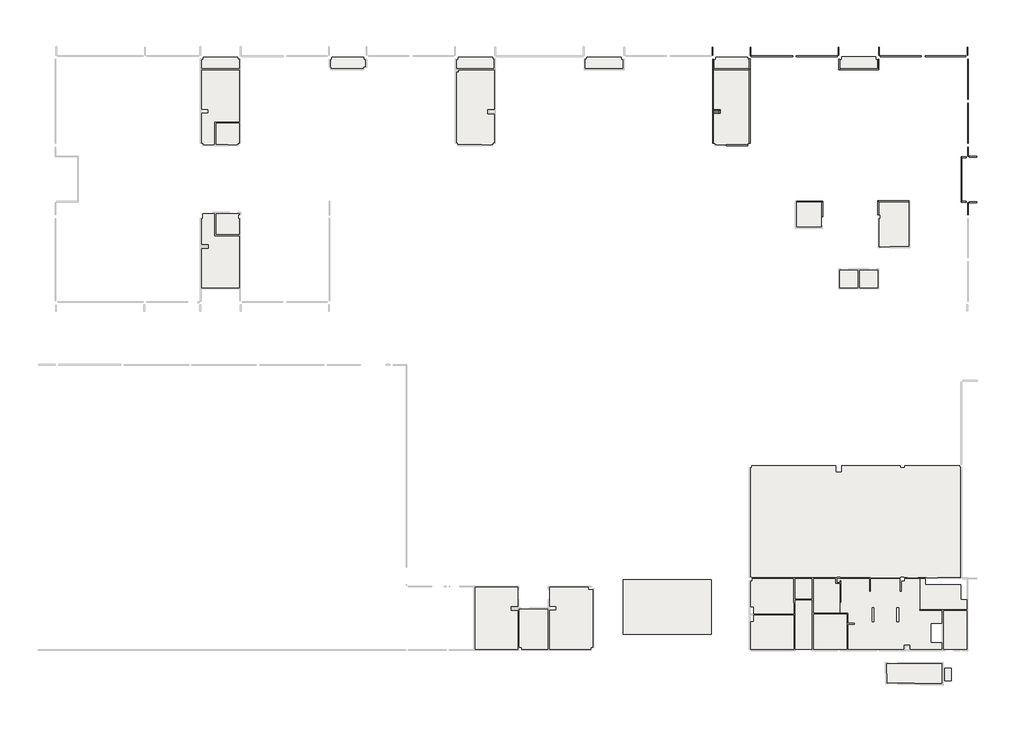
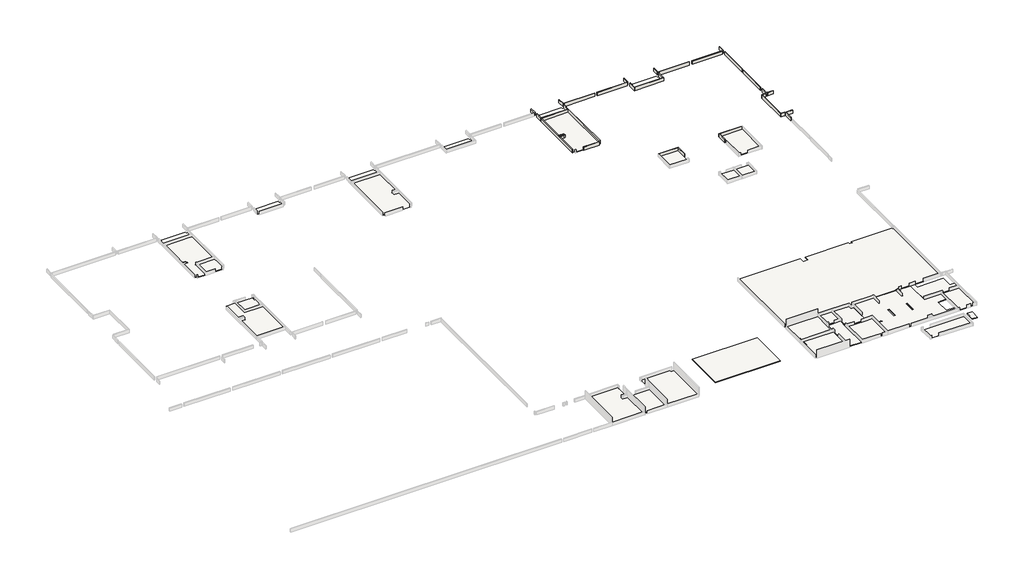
# One storey, part 4 of 4: 34 walls, 32 slabs.
"""IFC4 building model written with IfcOpenShell, lengths in millimetres."""

from ifc_helpers import new_model, si_unit, frame, origin, place, context, project, spatial, polyline, outline, extrude, faceted_brep, element, save

model = new_model("IFC4")

# Units and contexts
model_context = context("Model", 3, world=origin())
ifc_project = project(units=[si_unit("LENGTHUNIT", "METRE", prefix="MILLI")], contexts=[model_context])

# Site, building, storey
site = spatial("IfcSite", under=ifc_project)
building = spatial("IfcBuilding", under=site)
storey = spatial("IfcBuildingStorey", under=building, Name="PLANTA DE IMPERMEABILIZAÇÃO - TERREO", Elevation=52050.0)

# Slabs
placement = place(None, origin())
element("IfcSlab", 1, ObjectType="Áreas frias", at=placement, inside=storey, context=model_context, shape_type="SweptSolid", body=[
    extrude(outline(polyline([(-43835.4504459, 21906.8823991), (-44843.0467035, 21906.8823991), (-44843.0467035, 22040.4418221), (-44972.049875, 22040.4418221), (-44972.049875, 24681.8823991), (-44369.549875, 24681.8823991), (-44369.549875, 25056.8823991), (-44972.049875, 25056.8823991), (-44972.049875, 28556.8823991), (-41602.049875, 28556.8823991), (-41602.049875, 23956.8823991), (-43835.4504459, 23956.8823991), (-43835.4504459, 21906.8823991)])), frame((0.0, 0.0, 52047.0), z_axis=(0.0, 0.0, 1.0), x_axis=(1.0, 0.0, 0.0)), (0.0, 0.0, 1.0), 53.0),
])
element("IfcSlab", 2, ObjectType="Áreas frias", at=placement, inside=storey, context=model_context, shape_type="SweptSolid", body=[
    extrude(outline(polyline([(-41731.0467035, 21906.8823991), (-43685.4504459, 21906.8823991), (-43685.4504459, 23806.8823991), (-41602.049875, 23806.8823991), (-41602.049875, 22040.4418221), (-41731.0467035, 22040.4418221), (-41731.0467035, 21906.8823991)])), frame((0.0, 0.0, 52047.0), z_axis=(0.0, 0.0, 1.0), x_axis=(1.0, 0.0, 0.0)), (0.0, 0.0, 1.0), 53.0),
])
element("IfcSlab", 3, ObjectType="Áreas frias", at=placement, inside=storey, context=model_context, shape_type="SweptSolid", body=[
    extrude(outline(polyline([(-18837.049875, 24632.8850282), (-18837.049875, 22041.4418221), (-18968.5467035, 22041.4418221), (-18968.5467035, 21906.8823991), (-22075.5467035, 21906.8823991), (-22075.5467035, 22041.4418221), (-22207.049875, 22041.4418221), (-22207.049875, 28352.3823991), (-22005.049875, 28352.3823991), (-22005.049875, 28556.8823991), (-18837.049875, 28556.8823991), (-18837.049875, 25056.8850283), (-19439.549875, 25056.8850283), (-19439.549875, 24632.8850282), (-18837.049875, 24632.8850282)])), frame((0.0, 0.0, 52047.0), z_axis=(0.0, 0.0, 1.0), x_axis=(1.0, 0.0, 0.0)), (0.0, 0.0, 1.0), 53.0),
])
element("IfcSlab", 4, ObjectType="Áreas frias", at=placement, inside=storey, context=model_context, shape_type="SweptSolid", body=[
    extrude(outline(polyline([(3798.9532965, 21906.8823991), (909.4532965, 21906.8823991), (909.4532965, 22040.4418221), (785.450125, 22040.4418221), (785.450125, 24677.5823991), (1385.6589783, 24677.5823991), (1385.6589783, 25057.5823991), (785.450125, 25057.5823991), (785.450125, 28556.8823991), (3925.450125, 28556.8823991), (3925.450125, 22040.4418221), (3798.9532965, 22040.4418221), (3798.9532965, 21906.8823991)])), frame((0.0, 0.0, 52047.0), z_axis=(0.0, 0.0, 1.0), x_axis=(1.0, 0.0, 0.0)), (0.0, 0.0, 1.0), 53.0),
])
element("IfcSlab", 5, ObjectType="Áreas frias", at=placement, inside=storey, context=model_context, shape_type="SweptSolid", body=[
    extrude(outline(polyline([(-44867.5467035, 15736.8823991), (-43835.4504459, 15736.8823991), (-43835.4504459, 13722.7823991), (-41602.049875, 13722.7823991), (-41602.049875, 9122.7823991), (-44972.049875, 9122.7823991), (-44972.049875, 12622.7823991), (-44369.549875, 12622.7823991), (-44369.549875, 12997.7823991), (-44972.049875, 12997.7823991), (-44972.049875, 15286.8823991), (-44867.5467035, 15286.8823991), (-44867.5467035, 15736.8823991)])), frame((0.0, 0.0, 52097.0), z_axis=(0.0, 0.0, 1.0), x_axis=(1.0, 0.0, 0.0)), (0.0, 0.0, 1.0), 53.0),
])
element("IfcSlab", 6, ObjectType="Áreas frias", at=placement, inside=storey, context=model_context, shape_type="SweptSolid", body=[
    extrude(outline(polyline([(10377.9501439, 16739.3823991), (10377.9501439, 14536.8823991), (8177.9501439, 14536.8823991), (8177.9501439, 16739.3823991), (10377.9501439, 16739.3823991)])), frame((0.0, 0.0, 52047.0), z_axis=(0.0, 0.0, 1.0), x_axis=(1.0, 0.0, 0.0)), (0.0, 0.0, 1.0), 53.0),
])
element("IfcSlab", 7, ObjectType="Áreas frias", at=placement, inside=storey, context=model_context, shape_type="SweptSolid", body=[
    extrude(outline(polyline([(18187.4566277, 16739.3823991), (18187.4566277, 12785.8824248), (15557.950125, 12785.8824248), (15557.950125, 15286.8823991), (15657.4532965, 15286.8823991), (15657.4532965, 15636.8823991), (15557.950125, 15636.8823991), (15557.950125, 16486.8823991), (15557.950125, 16739.3823991), (18187.4566277, 16739.3823991)])), frame((0.0, 0.0, 52047.0), z_axis=(0.0, 0.0, 1.0), x_axis=(1.0, 0.0, 0.0)), (0.0, 0.0, 1.0), 53.0),
])
element("IfcSlab", 8, ObjectType="Áreas frias", at=placement, inside=storey, context=model_context, shape_type="SweptSolid", body=[
    extrude(outline(polyline([(12050.450125, 10691.3823977), (13657.950125, 10691.3823977), (13657.950125, 9117.3823973), (12050.450125, 9117.3823973), (12050.450125, 10691.3823977)])), frame((0.0, 0.0, 52097.0), z_axis=(0.0, 0.0, 1.0), x_axis=(1.0, 0.0, 0.0)), (0.0, 0.0, 1.0), 53.0),
])
element("IfcSlab", 9, ObjectType="Áreas frias", at=placement, inside=storey, context=model_context, shape_type="SweptSolid", body=[
    extrude(outline(polyline([(13807.950125, 10691.3823977), (15415.450125, 10691.3823977), (15415.450125, 9117.3823973), (13807.950125, 9117.3823973), (13807.950125, 10691.3823977)])), frame((0.0, 0.0, 52097.0), z_axis=(0.0, 0.0, 1.0), x_axis=(1.0, 0.0, 0.0)), (0.0, 0.0, 1.0), 53.0),
])
element("IfcSlab", 10, ObjectType="Áreas frias", at=placement, inside=storey, context=model_context, shape_type="SweptSolid", body=[
    extrude(outline(polyline([(17814.4532965, -16798.1176009), (17814.4532965, -16711.6176009), (17446.4532965, -16711.6176009), (17446.4532965, -16798.1176009), (12129.4533154, -16798.1176009), (12129.4533154, -16711.6176009), (11761.4533154, -16711.6176009), (11761.4533154, -16798.1176009), (4179.4532965, -16798.1176009), (4179.4532965, -16711.6176009), (4060.250125, -16711.6176009), (4060.250125, -16709.1176009), (4060.250125, -6987.1176009), (4060.250125, -6984.6176009), (4189.4532965, -6984.6176009), (4189.4532965, -6773.1176009), (11660.4533154, -6773.1176009), (11660.4533154, -7373.1176009), (12230.4533154, -7373.1176009), (12230.4533154, -6768.1176009), (17436.4532965, -6768.1176009), (17436.4532965, -6984.6176009), (17824.4532965, -6984.6176009), (17824.4532965, -6768.1176009), (22749.450125, -6768.1176009), (22749.450125, -6925.1176009), (22825.152905, -6925.1176009), (22825.152905, -6940.1176009), (22825.152905, -16798.1176009), (17814.4532965, -16798.1176009)])), frame((0.0, 0.0, 52047.0), z_axis=(0.0, 0.0, 1.0), x_axis=(1.0, 0.0, 0.0)), (0.0, 0.0, 1.0), 53.0),
])
element("IfcSlab", 11, ObjectType="Áreas frias", at=placement, inside=storey, context=model_context, shape_type="SweptSolid", body=[
    extrude(outline(polyline([(21182.1190357, -24491.617526), (21182.1190357, -24624.1802714), (21182.1190357, -26190.8666518), (21182.1190357, -26264.0423581), (16240.6986665, -26165.6844323), (16240.6986665, -25433.212836), (16240.6986665, -25289.9696677), (16240.6986665, -24491.617526), (21182.1190357, -24491.617526)])), frame((0.0, 0.0, 52047.0), z_axis=(0.0, 0.0, 1.0), x_axis=(1.0, 0.0, 0.0)), (0.0, 0.0, 1.0), 53.0),
])
element("IfcSlab", 12, ObjectType="Áreas frias", at=placement, inside=storey, context=model_context, shape_type="SweptSolid", body=[
    extrude(outline(polyline([(21300.1268114, -19760.9448373), (23364.450125, -19760.9448373), (23364.450125, -23198.1176009), (23038.950125, -23198.1176009), (22746.950125, -23198.1176009), (21300.1268114, -23198.1176009), (21300.1268114, -22533.1176009), (21300.1268114, -20925.9448373), (21300.1268114, -19760.9448373)])), frame((0.0, 0.0, 52047.0), z_axis=(0.0, 0.0, 1.0), x_axis=(1.0, 0.0, 0.0)), (0.0, 0.0, 1.0), 53.0),
])
element("IfcSlab", 13, ObjectType="Áreas frias", at=placement, inside=storey, context=model_context, shape_type="SweptSolid", body=[
    extrude(outline(polyline([(19157.2980087, -16880.6176009), (19689.450125, -16880.6176009), (19689.450125, -17408.1176009), (22839.450125, -17408.1176009), (22839.450125, -18758.1176009), (23364.450125, -18758.1176009), (23364.450125, -19610.9448373), (21225.1268114, -19610.9448373), (19183.7242173, -19610.9448373), (19157.2980087, -16880.6176009)])), frame((0.0, 0.0, 52047.0), z_axis=(0.0, 0.0, 1.0), x_axis=(1.0, 0.0, 0.0)), (0.0, 0.0, 1.0), 53.0),
])
element("IfcSlab", 14, ObjectType="Áreas frias", at=placement, inside=storey, context=model_context, shape_type="SweptSolid", body=[
    extrude(outline(polyline([(17829.4532965, -16880.6176009), (19157.2980087, -16880.6176009), (19185.1760328, -19760.9448373), (21150.1268114, -19760.9448373), (21150.1268114, -20860.9448373), (20175.1268114, -20860.9448373), (20175.1268114, -22598.1176009), (21150.1268114, -22598.1176009), (21150.1268114, -23198.1176009), (18320.450125, -23198.1176009), (18320.450125, -22798.1176009), (17770.450125, -22798.1176009), (17770.450125, -23198.1176009), (15586.1299829, -23198.1176009), (15294.1299829, -23198.1176009), (12793.9501612, -23198.1176009), (12793.9501612, -20973.1176009), (13368.9501612, -20973.1176009), (13368.9501612, -20823.1176009), (12793.9501612, -20823.1176009), (12793.9501612, -19912.5217416), (12020.450125, -19912.5217416), (12020.450125, -17228.1176009), (11771.4533154, -17228.1176009), (11771.4533154, -16880.6176009), (14652.3058236, -16880.6176009), (14652.3058236, -17998.2862782), (14802.3058236, -17998.2862782), (14802.3058236, -16880.6176009), (17400.450125, -16880.6176009), (17400.450125, -17087.1176009), (17400.450125, -17998.2862782), (17550.450125, -17998.2862782), (17550.450125, -17099.6176009), (17829.4532965, -17099.6176009), (17829.4532965, -16880.6176009)]), holes=[polyline([(15084.8779925, -19462.5217416), (14934.8779925, -19462.5217416), (14934.8779925, -20742.5217416), (15084.8779925, -20742.5217416), (15084.8779925, -19462.5217416)]), polyline([(17294.8779925, -19462.5217416), (17144.8779925, -19462.5217416), (17144.8779925, -20742.5217416), (17294.8779925, -20742.5217416), (17294.8779925, -19462.5217416)])]), frame((0.0, 0.0, 52047.0), z_axis=(0.0, 0.0, 1.0), x_axis=(1.0, 0.0, 0.0)), (0.0, 0.0, 1.0), 53.0),
])
element("IfcSlab", 15, ObjectType="Áreas frias", at=placement, inside=storey, context=model_context, shape_type="SweptSolid", body=[
    extrude(outline(polyline([(9702.0605099, -23198.1176009), (9702.0605099, -20062.5217416), (12020.450125, -20062.5217416), (12643.9501612, -20062.5217416), (12643.9501612, -20898.1176009), (12643.9501612, -23198.1176009), (12091.4533154, -23198.1176009), (11799.4533154, -23198.1176009), (9702.0605099, -23198.1176009)])), frame((0.0, 0.0, 52047.0), z_axis=(0.0, 0.0, 1.0), x_axis=(1.0, 0.0, 0.0)), (0.0, 0.0, 1.0), 53.0),
])
element("IfcSlab", 16, ObjectType="Áreas frias", at=placement, inside=storey, context=model_context, shape_type="SweptSolid", body=[
    extrude(outline(polyline([(9702.0605099, -16880.6176009), (11656.4533154, -16880.6176009), (11656.4533154, -17343.1176009), (12020.450125, -17343.1176009), (12020.450125, -19912.5217416), (9702.0605099, -19912.5217416), (9702.0605099, -18732.6216049), (9702.0605099, -16880.6176009)])), frame((0.0, 0.0, 52047.0), z_axis=(0.0, 0.0, 1.0), x_axis=(1.0, 0.0, 0.0)), (0.0, 0.0, 1.0), 53.0),
])
element("IfcSlab", 17, ObjectType="Áreas frias", at=placement, inside=storey, context=model_context, shape_type="SweptSolid", body=[
    extrude(outline(polyline([(8062.2512942, -16880.6176009), (9552.0605099, -16880.6176009), (9552.0605099, -18657.6216049), (8062.2512942, -18657.6216049), (8062.2512942, -16880.6176009)])), frame((0.0, 0.0, 52047.0), z_axis=(0.0, 0.0, 1.0), x_axis=(1.0, 0.0, 0.0)), (0.0, 0.0, 1.0), 53.0),
])
element("IfcSlab", 18, ObjectType="Áreas frias", at=placement, inside=storey, context=model_context, shape_type="SweptSolid", body=[
    extrude(outline(polyline([(4194.4532965, -16880.6176009), (7912.2512942, -16880.6176009), (7912.2512942, -18732.6216049), (7912.2512942, -19992.7174473), (4360.450125, -19992.7174473), (4360.450125, -19392.7174473), (4065.250125, -19392.7174473), (4065.250125, -17099.6176009), (4194.4532965, -17099.6176009), (4194.4532965, -16880.6176009)])), frame((0.0, 0.0, 52047.0), z_axis=(0.0, 0.0, 1.0), x_axis=(1.0, 0.0, 0.0)), (0.0, 0.0, 1.0), 53.0),
])
element("IfcSlab", 19, ObjectType="Áreas frias", at=placement, inside=storey, context=model_context, shape_type="SweptSolid", body=[
    extrude(outline(polyline([(7912.2512942, -20142.7174473), (7912.2512942, -23198.1176009), (4141.4532965, -23198.1176009), (4065.250125, -23198.1176009), (4065.250125, -20737.7174473), (4360.450125, -20737.7174473), (4360.450125, -20142.7174473), (7912.2512942, -20142.7174473)])), frame((0.0, 0.0, 52047.0), z_axis=(0.0, 0.0, 1.0), x_axis=(1.0, 0.0, 0.0)), (0.0, 0.0, 1.0), 53.0),
])
element("IfcSlab", 20, ObjectType="Áreas frias", at=placement, inside=storey, context=model_context, shape_type="SweptSolid", body=[
    extrude(outline(polyline([(8062.2512942, -23198.1176009), (8062.2512942, -20067.7174473), (8062.2512942, -18807.6216049), (9552.0605099, -18807.6216049), (9552.0605099, -19987.5217416), (9552.0605099, -23198.1176009), (8062.2512942, -23198.1176009)])), frame((0.0, 0.0, 52047.0), z_axis=(0.0, 0.0, 1.0), x_axis=(1.0, 0.0, 0.0)), (0.0, 0.0, 1.0), 53.0),
])
element("IfcSlab", 21, ObjectType="Áreas frias", at=placement, inside=storey, context=model_context, shape_type="SweptSolid", body=[
    extrude(outline(polyline([(-10054.949875, -17855.9176009), (-10054.949875, -23020.1111109), (-10191.4854723, -23020.1111109), (-10191.4854723, -23167.9176009), (-13889.549875, -23167.9176009), (-13889.549875, -19712.9176009), (-13289.549875, -19712.9176009), (-13289.549875, -19332.9176009), (-13894.549875, -19332.9176009), (-13894.549875, -17642.9176009), (-10803.357076, -17642.9176009), (-10437.649875, -17642.9176009), (-10437.649875, -17855.9176009), (-10054.949875, -17855.9176009)])), frame((0.0, 0.0, 52047.0), z_axis=(0.0, 0.0, 1.0), x_axis=(1.0, 0.0, 0.0)), (0.0, 0.0, 1.0), 53.0),
])
element("IfcSlab", 22, ObjectType="Áreas frias", at=placement, inside=storey, context=model_context, shape_type="SweptSolid", body=[
    extrude(outline(polyline([(-14039.549875, -23167.9176009), (-16364.5579423, -23167.9176009), (-16364.5579423, -23020.1111109), (-16599.549875, -23020.1111109), (-16599.549875, -19700.4176009), (-16599.549875, -19592.9176009), (-14039.549875, -19592.9176009), (-14039.549875, -19700.4176009), (-14039.549875, -23167.9176009)])), frame((0.0, 0.0, 52047.0), z_axis=(0.0, 0.0, 1.0), x_axis=(1.0, 0.0, 0.0)), (0.0, 0.0, 1.0), 53.0),
])
element("IfcSlab", 23, ObjectType="Áreas frias", at=placement, inside=storey, context=model_context, shape_type="SweptSolid", body=[
    extrude(outline(polyline([(-16749.549875, -23167.9176009), (-20547.049875, -23167.9176009), (-20547.049875, -17642.9176009), (-16744.549875, -17642.9176009), (-16744.549875, -19332.9176009), (-17349.549875, -19332.9176009), (-17349.549875, -19712.9176009), (-16749.549875, -19712.9176009), (-16749.549875, -23032.6111109), (-16749.549875, -23167.9176009)])), frame((0.0, 0.0, 52047.0), z_axis=(0.0, 0.0, 1.0), x_axis=(1.0, 0.0, 0.0)), (0.0, 0.0, 1.0), 53.0),
])
element("IfcSlab", 24, ObjectType="Áreas frias", at=placement, inside=storey, context=model_context, shape_type="SweptSolid", body=[
    extrude(outline(polyline([(-41622.049875, 28716.8823991), (-44952.049875, 28716.8823991), (-44952.049875, 29485.2226879), (-44820.5467035, 29485.2226879), (-44820.5467035, 29719.0629762), (-41729.5467035, 29719.0629762), (-41729.5467035, 29509.7226879), (-41622.049875, 29509.7226879), (-41622.049875, 28716.8823991)])), frame((0.0, 0.0, 51997.0), z_axis=(0.0, 0.0, 1.0), x_axis=(1.0, 0.0, 0.0)), (0.0, 0.0, 1.0), 53.0),
])
element("IfcSlab", 25, ObjectType="Áreas frias", at=placement, inside=storey, context=model_context, shape_type="SweptSolid", body=[
    extrude(outline(polyline([(-33325.5467035, 29719.0629762), (-30483.5467035, 29719.0629762), (-30483.5467035, 29485.2226879), (-30352.049875, 29485.2226879), (-30352.049875, 28868.9390638), (-30550.3755098, 28868.9390638), (-30550.3755098, 28716.8823991), (-31977.0497767, 28716.8823991), (-33376.0467035, 28716.8823991), (-33376.0467035, 28846.4390638), (-33457.049875, 28846.4390638), (-33457.049875, 29485.2226879), (-33325.5467035, 29485.2226879), (-33325.5467035, 29719.0629762)])), frame((0.0, 0.0, 51997.0), z_axis=(0.0, 0.0, 1.0), x_axis=(1.0, 0.0, 0.0)), (0.0, 0.0, 1.0), 53.0),
])
element("IfcSlab", 26, ObjectType="Áreas frias", at=placement, inside=storey, context=model_context, shape_type="SweptSolid", body=[
    extrude(outline(polyline([(-22055.5467035, 29719.0629763), (-18964.5467035, 29719.0629763), (-18964.5467035, 29509.7226879), (-18857.049875, 29509.7226879), (-18857.049875, 28716.8823991), (-22017.549875, 28716.8823991), (-22187.049875, 28716.8823991), (-22187.049875, 29485.2226879), (-22055.5467035, 29485.2226879), (-22055.5467035, 29719.0629763)])), frame((0.0, 0.0, 51997.0), z_axis=(0.0, 0.0, 1.0), x_axis=(1.0, 0.0, 0.0)), (0.0, 0.0, 1.0), 53.0),
])
element("IfcSlab", 27, ObjectType="Áreas frias", at=placement, inside=storey, context=model_context, shape_type="SweptSolid", body=[
    extrude(outline(polyline([(-10584.5467035, 29719.0629763), (-7498.5467035, 29719.0629763), (-7498.5467035, 29485.2226879), (-7369.549875, 29485.2226879), (-7369.549875, 28714.3823991), (-10692.049875, 28714.3823991), (-10692.049875, 29509.7226879), (-10584.5467035, 29509.7226879), (-10584.5467035, 29719.0629763)])), frame((0.0, 0.0, 51997.0), z_axis=(0.0, 0.0, 1.0), x_axis=(1.0, 0.0, 0.0)), (0.0, 0.0, 1.0), 53.0),
])
element("IfcSlab", 28, ObjectType="Áreas frias", at=placement, inside=storey, context=model_context, shape_type="SweptSolid", body=[
    extrude(outline(polyline([(934.4532965, 29721.5629763), (3800.4532965, 29721.5629763), (3800.4532965, 29509.7226879), (3905.450125, 29509.7226879), (3905.450125, 28716.8823991), (805.450125, 28716.8823991), (805.450125, 28911.8823991), (805.450125, 29485.2226879), (934.4532965, 29485.2226879), (934.4532965, 29721.5629763)])), frame((0.0, 0.0, 51997.0), z_axis=(0.0, 0.0, 1.0), x_axis=(1.0, 0.0, 0.0)), (0.0, 0.0, 1.0), 53.0),
])
element("IfcSlab", 29, ObjectType="Áreas frias", at=placement, inside=storey, context=model_context, shape_type="SweptSolid", body=[
    extrude(outline(polyline([(12199.4532965, 29726.8823991), (15266.4532965, 29726.8823991), (15266.4532965, 29485.2226879), (15397.950125, 29485.2226879), (15397.950125, 28717.5823991), (12070.450125, 28717.5823991), (12070.450125, 29485.2226879), (12199.4532965, 29485.2226879), (12199.4532965, 29726.8823991)])), frame((0.0, 0.0, 51997.0), z_axis=(0.0, 0.0, 1.0), x_axis=(1.0, 0.0, 0.0)), (0.0, 0.0, 1.0), 53.0),
])
element("IfcSlab", 30, ObjectType="Áreas frias", at=placement, inside=storey, context=model_context, shape_type="SweptSolid", body=[
    extrude(outline(polyline([(-41602.049875, 15736.8823991), (-41602.049875, 15636.8823991), (-41706.5467035, 15636.8823991), (-41706.5467035, 15286.8823991), (-41602.049875, 15286.8823991), (-41602.049875, 13872.7823991), (-43685.4504459, 13872.7823991), (-43685.4504459, 15736.8823991), (-41602.049875, 15736.8823991)])), frame((0.0, 0.0, 52047.0), z_axis=(0.0, 0.0, 1.0), x_axis=(1.0, 0.0, 0.0)), (0.0, 0.0, 1.0), 53.0),
])
element("IfcSlab", 31, ObjectType="Reservatórios enterrados inferiores ou piscina enterrada", at=placement, inside=storey, context=model_context, shape_type="SweptSolid", body=[
    extrude(outline(polyline([(-7327.5498837, -21844.6175617), (-7327.5498837, -16955.6176009), (545.9896435, -16955.6176009), (545.9896435, -21844.6175617), (-7327.5498837, -21844.6175617)])), frame((0.0, 0.0, 51995.0), z_axis=(0.0, 0.0, 1.0), x_axis=(1.0, 0.0, 0.0)), (0.0, 0.0, 1.0), 55.0),
])
element("IfcSlab", 32, ObjectType="Lajes de cobertura ou terraço", at=placement, inside=storey, context=model_context, shape_type="SweptSolid", body=[
    extrude(outline(polyline([(21409.7514061, -24876.501367), (22009.7514061, -24876.501367), (22009.7514061, -25991.0031391), (21409.7514061, -25991.0031391), (21409.7514061, -24876.501367)])), frame((0.0, 0.0, 52575.0), z_axis=(0.0, 0.0, 1.0), x_axis=(1.0, 0.0, 0.0)), (0.0, 0.0, 1.0), 75.0),
])

# Walls
element("IfcWall", 33, ObjectType="Áreas frias", at=placement, inside=storey, context=model_context, shape_type="SweptSolid", body=[
    extrude(outline(polyline([(692.950125, 30613.2226879), (692.950125, 29873.2226879), (627.950125, 29873.2226879), (627.950125, 30613.2226879), (692.950125, 30613.2226879)])), frame((0.0, 0.0, 52050.0), z_axis=(0.0, 0.0, 1.0), x_axis=(1.0, 0.0, 0.0)), (0.0, 0.0, 1.0), 400.0),
])
element("IfcWall", 34, ObjectType="Áreas frias", at=placement, inside=storey, context=model_context, shape_type="Brep", body=[
    faceted_brep([(682.9532965, 29530.2226879, 52050.0), (682.9532965, 28636.8823991, 52050.0), (682.9532965, 28636.8823991, 52450.0), (682.9532965, 29530.2226879, 52450.0), (747.9532965, 29530.2226879, 52050.0), (747.9532965, 29530.2226879, 52450.0), (747.9532965, 28669.3823991, 52450.0), (747.9532965, 28636.8823991, 52450.0), (747.9532965, 28636.8823991, 52050.0), (747.9532965, 28669.3823991, 52050.0)], [[[0, 1, 2, 3]], [[4, 5, 6, 7, 8, 9]], [[1, 0, 4, 9, 8]], [[2, 1, 8, 7]], [[3, 2, 7, 6, 5]], [[0, 3, 5, 4]]]),
])
element("IfcWall", 35, ObjectType="Áreas frias", at=placement, inside=storey, context=model_context, shape_type="SweptSolid", body=[
    extrude(outline(polyline([(3823.9532965, 21804.3823991), (1909.4532965, 21804.3823991), (1909.4532965, 21869.3823991), (3823.9532965, 21869.3823991), (3823.9532965, 21804.3823991)])), frame((0.0, 0.0, 52050.0), z_axis=(0.0, 0.0, 1.0), x_axis=(1.0, 0.0, 0.0)), (0.0, 0.0, 1.0), 400.0),
])
element("IfcWall", 36, ObjectType="Áreas frias", at=placement, inside=storey, context=model_context, shape_type="Brep", body=[
    faceted_brep([(4027.9532965, 22015.4418221, 52050.0), (4027.9532965, 28636.8823991, 52050.0), (4027.9532965, 28636.8823991, 52450.0), (4027.9532965, 22015.4418221, 52450.0), (3962.9532965, 22015.4418221, 52050.0), (3962.9532965, 22015.4418221, 52450.0), (3962.9532965, 28604.3823991, 52450.0), (3962.9532965, 28636.8823991, 52450.0), (3962.9532965, 28636.8823991, 52050.0), (3962.9532965, 28604.3823991, 52050.0)], [[[0, 1, 2, 3]], [[4, 5, 6, 7, 8, 9]], [[1, 0, 4, 9, 8]], [[2, 1, 8, 7]], [[3, 2, 7, 6, 5]], [[0, 3, 5, 4]]]),
])
element("IfcWall", 37, ObjectType="Áreas frias", at=placement, inside=storey, context=model_context, shape_type="Brep", body=[
    faceted_brep([(747.9532965, 28604.3823991, 52050.0), (3962.9532965, 28604.3823991, 52050.0), (3962.9532965, 28604.3823991, 52450.0), (747.9532965, 28604.3823991, 52450.0), (747.9532965, 28669.3823991, 52050.0), (747.9532965, 28669.3823991, 52450.0), (3962.9532965, 28669.3823991, 52450.0), (3962.9532965, 28669.3823991, 52050.0), (747.9532965, 28636.8823991, 52050.0), (3962.9532965, 28636.8823991, 52050.0), (3962.9532965, 28636.8823991, 52450.0), (747.9532965, 28636.8823991, 52450.0)], [[[0, 1, 2, 3]], [[4, 5, 6, 7]], [[1, 0, 8, 4, 7, 9]], [[3, 2, 10, 6, 5, 11]], [[0, 3, 11, 5, 4, 8]], [[2, 1, 9, 7, 6, 10]]]),
])
element("IfcWall", 38, ObjectType="Áreas frias", at=placement, inside=storey, context=model_context, shape_type="SweptSolid", body=[
    extrude(outline(polyline([(4082.950125, 30608.7226879), (4082.950125, 29848.7226879), (4017.950125, 29848.7226879), (4017.950125, 30608.7226879), (4082.950125, 30608.7226879)])), frame((0.0, 0.0, 52050.0), z_axis=(0.0, 0.0, 1.0), x_axis=(1.0, 0.0, 0.0)), (0.0, 0.0, 1.0), 400.0),
])
element("IfcWall", 39, ObjectType="Áreas frias", at=placement, inside=storey, context=model_context, shape_type="SweptSolid", body=[
    extrude(outline(polyline([(7837.9532965, 29755.3025435), (4145.4532965, 29755.3025435), (4145.4532965, 29820.3025435), (7837.9532965, 29820.3025435), (7837.9532965, 29755.3025435)])), frame((0.0, 0.0, 52050.0), z_axis=(0.0, 0.0, 1.0), x_axis=(1.0, 0.0, 0.0)), (0.0, 0.0, 1.0), 400.0),
])
element("IfcWall", 40, ObjectType="Áreas frias", at=placement, inside=storey, context=model_context, shape_type="SweptSolid", body=[
    extrude(outline(polyline([(11806.4532965, 29755.3025435), (8137.9532965, 29755.3025435), (8137.9532965, 29820.3025435), (11806.4532965, 29820.3025435), (11806.4532965, 29755.3025435)])), frame((0.0, 0.0, 52050.0), z_axis=(0.0, 0.0, 1.0), x_axis=(1.0, 0.0, 0.0)), (0.0, 0.0, 1.0), 400.0),
])
element("IfcWall", 41, ObjectType="Áreas frias", at=placement, inside=storey, context=model_context, shape_type="SweptSolid", body=[
    extrude(outline(polyline([(11947.950125, 30613.2226879), (11947.950125, 29873.2226879), (11882.950125, 29873.2226879), (11882.950125, 30613.2226879), (11947.950125, 30613.2226879)])), frame((0.0, 0.0, 52050.0), z_axis=(0.0, 0.0, 1.0), x_axis=(1.0, 0.0, 0.0)), (0.0, 0.0, 1.0), 400.0),
])
element("IfcWall", 42, ObjectType="Áreas frias", at=placement, inside=storey, context=model_context, shape_type="Brep", body=[
    faceted_brep([(11947.9532965, 29530.2226879, 52050.0), (11947.9532965, 28597.7226879, 52050.0), (11947.9532965, 28597.7226879, 52450.0), (11947.9532965, 29530.2226879, 52450.0), (12012.9532965, 29530.2226879, 52050.0), (12012.9532965, 29530.2226879, 52450.0), (12012.9532965, 28662.7226879, 52450.0), (12012.9532965, 28597.7226879, 52450.0), (12012.9532965, 28597.7226879, 52050.0), (12012.9532965, 28662.7226879, 52050.0)], [[[0, 1, 2, 3]], [[4, 5, 6, 7, 8, 9]], [[1, 0, 4, 9, 8]], [[3, 2, 7, 6, 5]], [[0, 3, 5, 4]], [[2, 1, 8, 7]]]),
])
element("IfcWall", 43, ObjectType="Áreas frias", at=placement, inside=storey, context=model_context, shape_type="Brep", body=[
    faceted_brep([(12012.9532965, 28597.7226879, 52050.0), (15532.9532965, 28597.7226879, 52050.0), (15532.9532965, 28597.7226879, 52450.0), (12012.9532965, 28597.7226879, 52450.0), (12012.9532965, 28662.7226879, 52050.0), (12012.9532965, 28662.7226879, 52450.0), (15467.9532965, 28662.7226879, 52450.0), (15532.9532965, 28662.7226879, 52450.0), (15532.9532965, 28662.7226879, 52050.0), (15467.9532965, 28662.7226879, 52050.0)], [[[0, 1, 2, 3]], [[4, 5, 6, 7, 8, 9]], [[1, 0, 4, 9, 8]], [[3, 2, 7, 6, 5]], [[0, 3, 5, 4]], [[2, 1, 8, 7]]]),
])
element("IfcWall", 44, ObjectType="Áreas frias", at=placement, inside=storey, context=model_context, shape_type="SweptSolid", body=[
    extrude(outline(polyline([(15532.9532965, 29530.2226879), (15532.9532965, 28662.7226879), (15467.9532965, 28662.7226879), (15467.9532965, 29530.2226879), (15532.9532965, 29530.2226879)])), frame((0.0, 0.0, 52050.0), z_axis=(0.0, 0.0, 1.0), x_axis=(1.0, 0.0, 0.0)), (0.0, 0.0, 1.0), 400.0),
])
element("IfcWall", 45, ObjectType="Áreas frias", at=placement, inside=storey, context=model_context, shape_type="SweptSolid", body=[
    extrude(outline(polyline([(15575.450125, 30613.2226879), (15575.450125, 29873.2226879), (15510.450125, 29873.2226879), (15510.450125, 30613.2226879), (15575.450125, 30613.2226879)])), frame((0.0, 0.0, 52050.0), z_axis=(0.0, 0.0, 1.0), x_axis=(1.0, 0.0, 0.0)), (0.0, 0.0, 1.0), 400.0),
])
element("IfcWall", 46, ObjectType="Áreas frias", at=placement, inside=storey, context=model_context, shape_type="SweptSolid", body=[
    extrude(outline(polyline([(19307.659323, 29759.3823991), (15659.4532965, 29759.3823991), (15659.4532965, 29824.3823991), (19307.659323, 29824.3823991), (19307.659323, 29759.3823991)])), frame((0.0, 0.0, 52050.0), z_axis=(0.0, 0.0, 1.0), x_axis=(1.0, 0.0, 0.0)), (0.0, 0.0, 1.0), 400.0),
])
element("IfcWall", 47, ObjectType="Áreas frias", at=placement, inside=storey, context=model_context, shape_type="SweptSolid", body=[
    extrude(outline(polyline([(23301.4532965, 29759.3823991), (19654.4532965, 29759.3823991), (19654.4532965, 29824.3823991), (23301.4532965, 29824.3823991), (23301.4532965, 29759.3823991)])), frame((0.0, 0.0, 52050.0), z_axis=(0.0, 0.0, 1.0), x_axis=(1.0, 0.0, 0.0)), (0.0, 0.0, 1.0), 400.0),
])
element("IfcWall", 48, ObjectType="Áreas frias", at=placement, inside=storey, context=model_context, shape_type="SweptSolid", body=[
    extrude(outline(polyline([(23465.159323, 30613.2226879), (23465.159323, 29873.2226879), (23400.159323, 29873.2226879), (23400.159323, 30613.2226879), (23465.159323, 30613.2226879)])), frame((0.0, 0.0, 52050.0), z_axis=(0.0, 0.0, 1.0), x_axis=(1.0, 0.0, 0.0)), (0.0, 0.0, 1.0), 400.0),
])
element("IfcWall", 49, ObjectType="Áreas frias", at=placement, inside=storey, context=model_context, shape_type="SweptSolid", body=[
    extrude(outline(polyline([(23442.9532965, 25953.082255), (23442.9532965, 29530.2226879), (23507.9532965, 29530.2226879), (23507.9532965, 25953.082255), (23442.9532965, 25953.082255)])), frame((0.0, 0.0, 52050.0), z_axis=(0.0, 0.0, 1.0), x_axis=(1.0, 0.0, 0.0)), (0.0, 0.0, 1.0), 400.0),
])
element("IfcWall", 50, ObjectType="Áreas frias", at=placement, inside=storey, context=model_context, shape_type="SweptSolid", body=[
    extrude(outline(polyline([(23442.9532965, 22025.4418221), (23442.9532965, 25600.082255), (23507.9532965, 25600.082255), (23507.9532965, 22025.4418221), (23442.9532965, 22025.4418221)])), frame((0.0, 0.0, 52050.0), z_axis=(0.0, 0.0, 1.0), x_axis=(1.0, 0.0, 0.0)), (0.0, 0.0, 1.0), 400.0),
])
element("IfcWall", 51, ObjectType="Áreas frias", at=placement, inside=storey, context=model_context, shape_type="SweptSolid", body=[
    extrude(outline(polyline([(23442.9532965, 20837.4418221), (23442.9532965, 21667.4418221), (23507.9532965, 21667.4418221), (23507.9532965, 20837.4418221), (23442.9532965, 20837.4418221)])), frame((0.0, 0.0, 52050.0), z_axis=(0.0, 0.0, 1.0), x_axis=(1.0, 0.0, 0.0)), (0.0, 0.0, 1.0), 400.0),
])
element("IfcWall", 52, ObjectType="Áreas frias", at=placement, inside=storey, context=model_context, shape_type="SweptSolid", body=[
    extrude(outline(polyline([(23597.4532965, 20850.0823991), (24287.0605113, 20850.0823991), (24287.0605113, 20785.0823991), (23597.4532965, 20785.0823991), (23597.4532965, 20850.0823991)])), frame((0.0, 0.0, 52050.0), z_axis=(0.0, 0.0, 1.0), x_axis=(1.0, 0.0, 0.0)), (0.0, 0.0, 1.0), 400.0),
])
element("IfcWall", 53, ObjectType="Áreas frias", at=placement, inside=storey, context=model_context, shape_type="Brep", body=[
    faceted_brep([(23353.4532965, 20805.0823991, 52050.0), (22880.9532965, 20805.0823991, 52050.0), (22880.9532965, 20805.0823991, 52450.0), (23353.4532965, 20805.0823991, 52450.0), (23353.4532965, 20740.0823991, 52050.0), (23353.4532965, 20740.0823991, 52450.0), (22945.9532965, 20740.0823991, 52450.0), (22880.9532965, 20740.0823991, 52450.0), (22880.9532965, 20740.0823991, 52050.0), (22945.9532965, 20740.0823991, 52050.0)], [[[0, 1, 2, 3]], [[4, 5, 6, 7, 8, 9]], [[1, 0, 4, 9, 8]], [[3, 2, 7, 6, 5]], [[0, 3, 5, 4]], [[2, 1, 8, 7]]]),
])
element("IfcWall", 54, ObjectType="Áreas frias", at=placement, inside=storey, context=model_context, shape_type="Brep", body=[
    faceted_brep([(22880.9532965, 20740.0823991, 52050.0), (22880.9532965, 16764.3823991, 52050.0), (22880.9532965, 16764.3823991, 52450.0), (22880.9532965, 20740.0823991, 52450.0), (22945.9532965, 20740.0823991, 52050.0), (22945.9532965, 20740.0823991, 52450.0), (22945.9532965, 16829.3823991, 52450.0), (22945.9532965, 16764.3823991, 52450.0), (22945.9532965, 16764.3823991, 52050.0), (22945.9532965, 16829.3823991, 52050.0)], [[[0, 1, 2, 3]], [[4, 5, 6, 7, 8, 9]], [[1, 0, 4, 9, 8]], [[3, 2, 7, 6, 5]], [[0, 3, 5, 4]], [[2, 1, 8, 7]]]),
])
element("IfcWall", 55, ObjectType="Áreas frias", at=placement, inside=storey, context=model_context, shape_type="SweptSolid", body=[
    extrude(outline(polyline([(23353.4532965, 16764.3823991), (22945.9532965, 16764.3823991), (22945.9532965, 16829.3823991), (23353.4532965, 16829.3823991), (23353.4532965, 16764.3823991)])), frame((0.0, 0.0, 52050.0), z_axis=(0.0, 0.0, 1.0), x_axis=(1.0, 0.0, 0.0)), (0.0, 0.0, 1.0), 400.0),
])
element("IfcWall", 56, ObjectType="Áreas frias", at=placement, inside=storey, context=model_context, shape_type="SweptSolid", body=[
    extrude(outline(polyline([(23597.4532965, 16786.8823991), (24285.450125, 16786.8823991), (24285.450125, 16721.8823991), (23597.4532965, 16721.8823991), (23597.4532965, 16786.8823991)])), frame((0.0, 0.0, 52050.0), z_axis=(0.0, 0.0, 1.0), x_axis=(1.0, 0.0, 0.0)), (0.0, 0.0, 1.0), 400.0),
])
element("IfcWall", 57, ObjectType="Áreas frias", at=placement, inside=storey, context=model_context, shape_type="SweptSolid", body=[
    extrude(outline(polyline([(23442.9532965, 15645.8823991), (23442.9532965, 16723.4975944), (23507.9532965, 16723.4975944), (23507.9532965, 15645.8823991), (23442.9532965, 15645.8823991)])), frame((0.0, 0.0, 52050.0), z_axis=(0.0, 0.0, 1.0), x_axis=(1.0, 0.0, 0.0)), (0.0, 0.0, 1.0), 400.0),
])
element("IfcWall", 58, ObjectType="Áreas frias", at=placement, inside=storey, context=model_context, shape_type="Brep", body=[
    faceted_brep([(18224.9566277, 16863.3824248, 52050.0), (15444.9566277, 16863.3824248, 52050.0), (15444.9566277, 16863.3824248, 52450.0), (18224.9566277, 16863.3824248, 52450.0), (18224.9566277, 16798.3824248, 52050.0), (18224.9566277, 16798.3824248, 52450.0), (15509.9566277, 16798.3824248, 52450.0), (15444.9566277, 16798.3824248, 52450.0), (15444.9566277, 16798.3824248, 52050.0), (15509.9566277, 16798.3824248, 52050.0)], [[[0, 1, 2, 3]], [[4, 5, 6, 7, 8, 9]], [[1, 0, 4, 9, 8]], [[3, 2, 7, 6, 5]], [[0, 3, 5, 4]], [[2, 1, 8, 7]]]),
])
element("IfcWall", 59, ObjectType="Áreas frias", at=placement, inside=storey, context=model_context, shape_type="SweptSolid", body=[
    extrude(outline(polyline([(15444.9566277, 15621.8823991), (15444.9566277, 16798.3824248), (15509.9566277, 16798.3824248), (15509.9566277, 15621.8823991), (15444.9566277, 15621.8823991)])), frame((0.0, 0.0, 52050.0), z_axis=(0.0, 0.0, 1.0), x_axis=(1.0, 0.0, 0.0)), (0.0, 0.0, 1.0), 400.0),
])
element("IfcWall", 60, ObjectType="Áreas frias", at=placement, inside=storey, context=model_context, shape_type="Brep", body=[
    faceted_brep([(8137.9501439, 16794.3823991, 52050.0), (10432.9501439, 16794.3823991, 52050.0), (10497.9501439, 16794.3823991, 52050.0), (10497.9501439, 16794.3823991, 52450.0), (10432.9501439, 16794.3823991, 52450.0), (8137.9501439, 16794.3823991, 52450.0), (8137.9501439, 16859.3823991, 52050.0), (8137.9501439, 16859.3823991, 52450.0), (10497.9501439, 16859.3823991, 52450.0), (10497.9501439, 16859.3823991, 52050.0)], [[[0, 1, 2, 3, 4, 5]], [[6, 7, 8, 9]], [[2, 1, 0, 6, 9]], [[5, 4, 3, 8, 7]], [[0, 5, 7, 6]], [[3, 2, 9, 8]]]),
])
element("IfcWall", 61, ObjectType="Áreas frias", at=placement, inside=storey, context=model_context, shape_type="SweptSolid", body=[
    extrude(outline(polyline([(10432.9501439, 15456.8823991), (10432.9501439, 16794.3823991), (10497.9501439, 16794.3823991), (10497.9501439, 15456.8823991), (10432.9501439, 15456.8823991)])), frame((0.0, 0.0, 52050.0), z_axis=(0.0, 0.0, 1.0), x_axis=(1.0, 0.0, 0.0)), (0.0, 0.0, 1.0), 400.0),
])
element("IfcWall", 62, ObjectType="Áreas frias", at=placement, inside=storey, context=model_context, shape_type="Brep", body=[
    faceted_brep([(4027.9532965, 28636.8823991, 52050.0), (4027.9532965, 29554.7226879, 52050.0), (4027.9532965, 29554.7226879, 52450.0), (4027.9532965, 28636.8823991, 52450.0), (3962.9532965, 28636.8823991, 52050.0), (3962.9532965, 28636.8823991, 52450.0), (3962.9532965, 28669.3823991, 52450.0), (3962.9532965, 29554.7226879, 52450.0), (3962.9532965, 29554.7226879, 52050.0), (3962.9532965, 28669.3823991, 52050.0)], [[[0, 1, 2, 3]], [[4, 5, 6, 7, 8, 9]], [[1, 0, 4, 9, 8]], [[2, 1, 8, 7]], [[3, 2, 7, 6, 5]], [[0, 3, 5, 4]]]),
])
element("IfcWall", 63, ObjectType="Áreas frias", at=placement, inside=storey, context=model_context, shape_type="Brep", body=[
    faceted_brep([(682.9532965, 28636.8823991, 52050.0), (682.9532965, 22015.4418221, 52050.0), (682.9532965, 22015.4418221, 52450.0), (682.9532965, 28636.8823991, 52450.0), (747.9532965, 28636.8823991, 52050.0), (747.9532965, 28636.8823991, 52450.0), (747.9532965, 28604.3823991, 52450.0), (747.9532965, 22015.4418221, 52450.0), (747.9532965, 22015.4418221, 52050.0), (747.9532965, 28604.3823991, 52050.0)], [[[0, 1, 2, 3]], [[4, 5, 6, 7, 8, 9]], [[1, 0, 4, 9, 8]], [[2, 1, 8, 7]], [[3, 2, 7, 6, 5]], [[0, 3, 5, 4]]]),
])
element("IfcWall", 64, ObjectType="Áreas frias", at=placement, inside=storey, context=model_context, shape_type="Brep", body=[
    faceted_brep([(760.450125, 24955.0823991, 52050.0), (1283.1589783, 24955.0823991, 52050.0), (1348.1589783, 24955.0823991, 52050.0), (1348.1589783, 24955.0823991, 52450.0), (1283.1589783, 24955.0823991, 52450.0), (760.450125, 24955.0823991, 52450.0), (760.450125, 25020.0823991, 52050.0), (760.450125, 25020.0823991, 52450.0), (1348.1589783, 25020.0823991, 52450.0), (1348.1589783, 25020.0823991, 52050.0)], [[[0, 1, 2, 3, 4, 5]], [[6, 7, 8, 9]], [[2, 1, 0, 6, 9]], [[5, 4, 3, 8, 7]], [[0, 5, 7, 6]], [[3, 2, 9, 8]]]),
])
element("IfcWall", 65, ObjectType="Áreas frias", at=placement, inside=storey, context=model_context, shape_type="Brep", body=[
    faceted_brep([(1283.1589783, 24955.0823991, 52050.0), (1283.1589783, 24780.0823991, 52050.0), (1283.1589783, 24715.0823991, 52050.0), (1283.1589783, 24715.0823991, 52450.0), (1283.1589783, 24780.0823991, 52450.0), (1283.1589783, 24955.0823991, 52450.0), (1348.1589783, 24955.0823991, 52050.0), (1348.1589783, 24955.0823991, 52450.0), (1348.1589783, 24715.0823991, 52450.0), (1348.1589783, 24715.0823991, 52050.0)], [[[0, 1, 2, 3, 4, 5]], [[6, 7, 8, 9]], [[2, 1, 0, 6, 9]], [[5, 4, 3, 8, 7]], [[0, 5, 7, 6]], [[3, 2, 9, 8]]]),
])
element("IfcWall", 66, ObjectType="Áreas frias", at=placement, inside=storey, context=model_context, shape_type="SweptSolid", body=[
    extrude(outline(polyline([(760.450125, 24780.0823991), (1283.1589783, 24780.0823991), (1283.1589783, 24715.0823991), (760.450125, 24715.0823991), (760.450125, 24780.0823991)])), frame((0.0, 0.0, 52050.0), z_axis=(0.0, 0.0, 1.0), x_axis=(1.0, 0.0, 0.0)), (0.0, 0.0, 1.0), 400.0),
])

save(model, "model.ifc")
